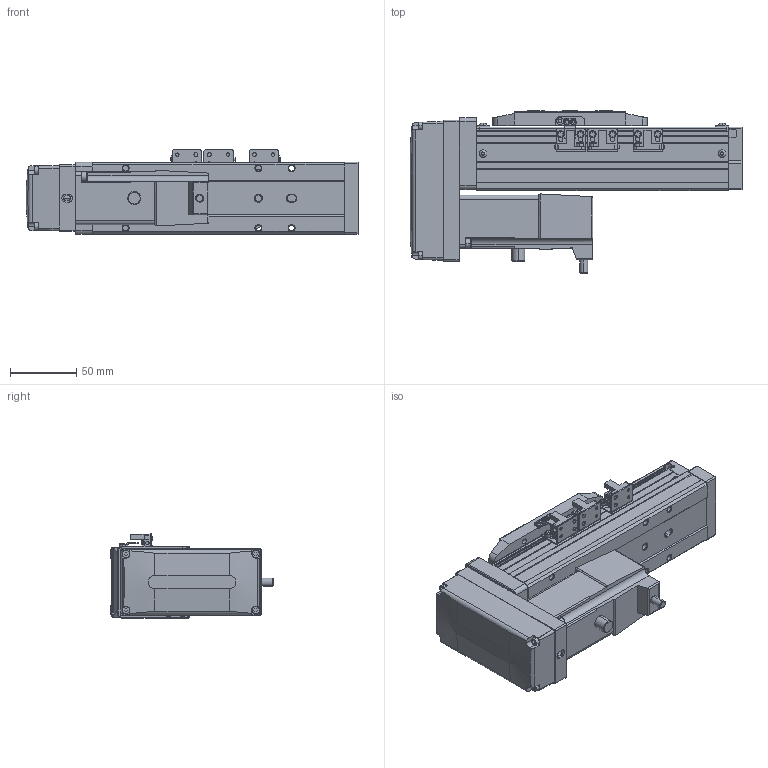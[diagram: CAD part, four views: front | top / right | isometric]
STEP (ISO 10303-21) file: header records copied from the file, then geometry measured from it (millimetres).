
FILE_DESCRIPTION (( 'STEP AP203' ), '1' );
FILE_NAME ('CTH5-L10-S50-BM-C10(¼ò).STEP', '2023-02-04T02:23:52', ( '' ), ( '' ), 'SwSTEP 2.0', 'SolidWorks 2018', '' );
FILE_SCHEMA (( 'CONFIG_CONTROL_DESIGN' ));
Length unit declared in the file: millimetre
Products named in the file (22): CTH5-L10-S50-BM-C10(潠); CTH5賑怢; CTH5覜茼え; CTH5菁釱-L190; 100W萇儂; CTH5耜蚾蟀諉啣(潠); CTH5綴耜啣; CTH5耜晚蹟隊; T10-p1; 内六角圆柱头螺钉M3-2; hex nuts, style 1-grades ab gb_GB_FASTENER_NUT_SNAB1 M3-N; CTH5ヶ耜啣(潠); M3｡｣; CTH100W假蚾啣; 葩璃 蚾饜极13^CTH8-L10-S50-BM-C40(潠)1; CTH5-BL-T10_body5; 嫖萇羲壽郪磁1; 葩璃 蚾饜极16^CTH5-L10-S50-BM-C10(潠); CTH5耜晚蹟隊-1; PM-Y45; CTH5耜蚾欶; CTH嫖萇羲壽假蚾啣
Assembly tree (37 placements, depth 4):
  CTH5-L10-S50-BM-C10(潠)
    CTH5綴耜啣
    CTH5賑怢
    CTH5ヶ耜啣(潠)
    CTH5菁釱-L190
    CTH5耜晚蹟隊  x2
    嫖萇羲壽郪磁1  x2
      CTH嫖萇羲壽假蚾啣
      PM-Y45
      M3｡｣
      内六角圆柱头螺钉M3-2
      hex nuts, style 1-grades ab gb_GB_FASTENER_NUT_SNAB1 M3-N
    CTH5覜茼え
    葩璃 蚾饜极13^CTH8-L10-S50-BM-C40(潠)1
      CTH嫖萇羲壽假蚾啣
      PM-Y45
      内六角圆柱头螺钉M3-2  x2
      M3｡｣  x2
      hex nuts, style 1-grades ab gb_GB_FASTENER_NUT_SNAB1 M3-N  x2
    CTH5耜晚蹟隊-1  x4
    葩璃 蚾饜极16^CTH5-L10-S50-BM-C10(潠)
      CTH5耜蚾蟀諉啣(潠)
      CTH5耜蚾欶
        CTH5-BL-T10_body5
      100W萇儂
        T10-p1
      CTH100W假蚾啣
Bounding box: 250 x 122.21 x 63.3 mm (x, y, z)
Volume: 834897.5 mm3; surface area: 151874.9 mm2
Topology: 39 solids, 39 shells, 1559 faces, 3897 edges, 2524 vertices
Faces by surface type: plane 890, cylinder 452, cone 159, torus 40, bspline 18
Entity records: 35863 total; most frequent: CARTESIAN_POINT 6636, DIRECTION 5621, ORIENTED_EDGE 5418, EDGE_CURVE 2709, AXIS2_PLACEMENT_3D 1916, VECTOR 1789, LINE 1789, VERTEX_POINT 1752
